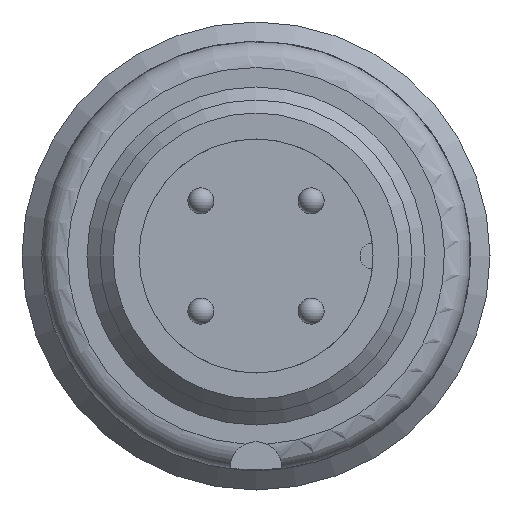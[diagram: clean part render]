
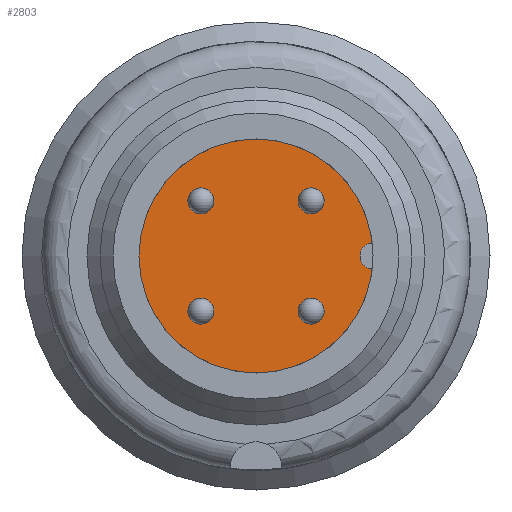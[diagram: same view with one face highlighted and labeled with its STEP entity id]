
A CAD part, left-side view. The second image highlights one B-rep face of the part: STEP entity #2803.
In plain terms, the highlighted planar face has unit normal (-1, 0, 0).
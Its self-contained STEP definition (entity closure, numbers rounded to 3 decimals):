
#2512=CARTESIAN_POINT('',(-42.478,-4.472,0.499));
#2513=VERTEX_POINT('',#2512);
#2522=CARTESIAN_POINT('',(-42.478,-4.472,-0.499));
#2523=VERTEX_POINT('',#2522);
#2524=CARTESIAN_POINT('',(-42.478,-4.5,0.0));
#2525=DIRECTION('',(1.0,0.0,0.0));
#2526=DIRECTION('',(0.0,0.0,-1.0));
#2527=AXIS2_PLACEMENT_3D('',#2524,#2525,#2526);
#2528=CIRCLE('',#2527,0.5);
#2529=EDGE_CURVE('',#2523,#2513,#2528,.T.);
#2573=CARTESIAN_POINT('',(-42.478,0.0,0.0));
#2574=DIRECTION('',(1.0,0.0,0.0));
#2575=DIRECTION('',(0.0,1.0,0.0));
#2576=AXIS2_PLACEMENT_3D('',#2573,#2574,#2575);
#2577=CIRCLE('',#2576,4.5);
#2578=EDGE_CURVE('',#2523,#2513,#2577,.T.);
#2625=CARTESIAN_POINT('',(-42.478,-2.121,-1.621));
#2626=VERTEX_POINT('',#2625);
#2627=CARTESIAN_POINT('',(-42.478,-2.121,-2.121));
#2628=DIRECTION('',(1.0,0.0,0.0));
#2629=DIRECTION('',(0.0,0.0,-1.0));
#2630=AXIS2_PLACEMENT_3D('',#2627,#2628,#2629);
#2631=CIRCLE('',#2630,0.5);
#2632=EDGE_CURVE('',#2626,#2626,#2631,.T.);
#2672=CARTESIAN_POINT('',(-42.478,-2.121,2.621));
#2673=VERTEX_POINT('',#2672);
#2674=CARTESIAN_POINT('',(-42.478,-2.121,2.121));
#2675=DIRECTION('',(1.0,0.0,0.0));
#2676=DIRECTION('',(0.0,0.0,-1.0));
#2677=AXIS2_PLACEMENT_3D('',#2674,#2675,#2676);
#2678=CIRCLE('',#2677,0.5);
#2679=EDGE_CURVE('',#2673,#2673,#2678,.T.);
#2719=CARTESIAN_POINT('',(-42.478,2.121,-1.621));
#2720=VERTEX_POINT('',#2719);
#2721=CARTESIAN_POINT('',(-42.478,2.121,-2.121));
#2722=DIRECTION('',(1.0,0.0,0.0));
#2723=DIRECTION('',(0.0,0.0,-1.0));
#2724=AXIS2_PLACEMENT_3D('',#2721,#2722,#2723);
#2725=CIRCLE('',#2724,0.5);
#2726=EDGE_CURVE('',#2720,#2720,#2725,.T.);
#2766=CARTESIAN_POINT('',(-42.478,2.121,2.621));
#2767=VERTEX_POINT('',#2766);
#2768=CARTESIAN_POINT('',(-42.478,2.121,2.121));
#2769=DIRECTION('',(1.0,0.0,0.0));
#2770=DIRECTION('',(0.0,0.0,-1.0));
#2771=AXIS2_PLACEMENT_3D('',#2768,#2769,#2770);
#2772=CIRCLE('',#2771,0.5);
#2773=EDGE_CURVE('',#2767,#2767,#2772,.T.);
#2782=CARTESIAN_POINT('',(-42.478,2.25,0.0));
#2783=DIRECTION('',(-1.0,0.0,0.0));
#2784=DIRECTION('',(0.0,0.0,1.0));
#2785=AXIS2_PLACEMENT_3D('',#2782,#2783,#2784);
#2786=PLANE('',#2785);
#2787=ORIENTED_EDGE('',*,*,#2529,.T.);
#2788=ORIENTED_EDGE('',*,*,#2578,.F.);
#2789=EDGE_LOOP('',(#2787,#2788));
#2790=FACE_OUTER_BOUND('',#2789,.T.);
#2791=ORIENTED_EDGE('',*,*,#2726,.T.);
#2792=EDGE_LOOP('',(#2791));
#2793=FACE_BOUND('',#2792,.T.);
#2794=ORIENTED_EDGE('',*,*,#2679,.T.);
#2795=EDGE_LOOP('',(#2794));
#2796=FACE_BOUND('',#2795,.T.);
#2797=ORIENTED_EDGE('',*,*,#2773,.T.);
#2798=EDGE_LOOP('',(#2797));
#2799=FACE_BOUND('',#2798,.T.);
#2800=ORIENTED_EDGE('',*,*,#2632,.T.);
#2801=EDGE_LOOP('',(#2800));
#2802=FACE_BOUND('',#2801,.T.);
#2803=ADVANCED_FACE('',(#2790,#2793,#2796,#2799,#2802),#2786,.T.);
